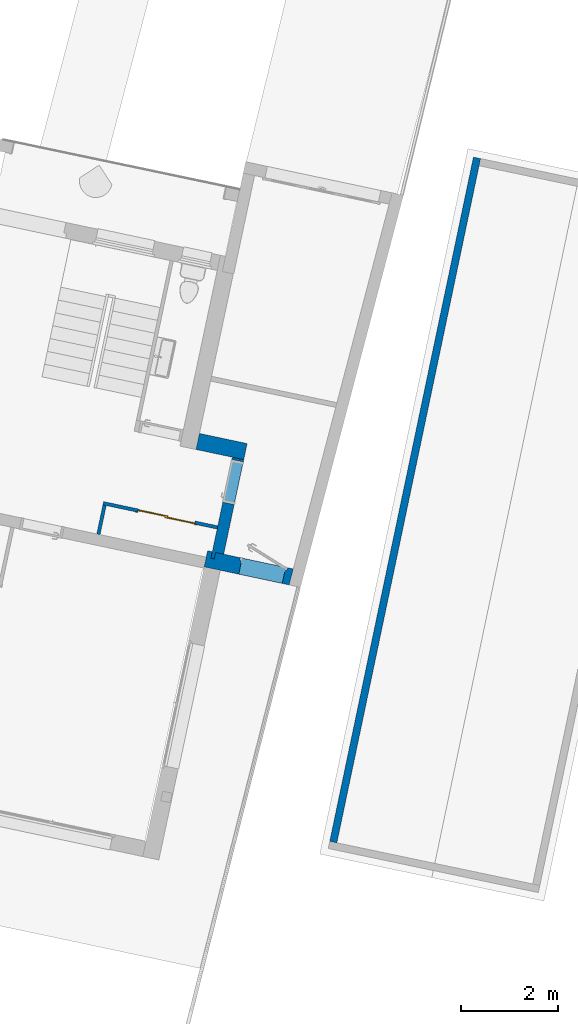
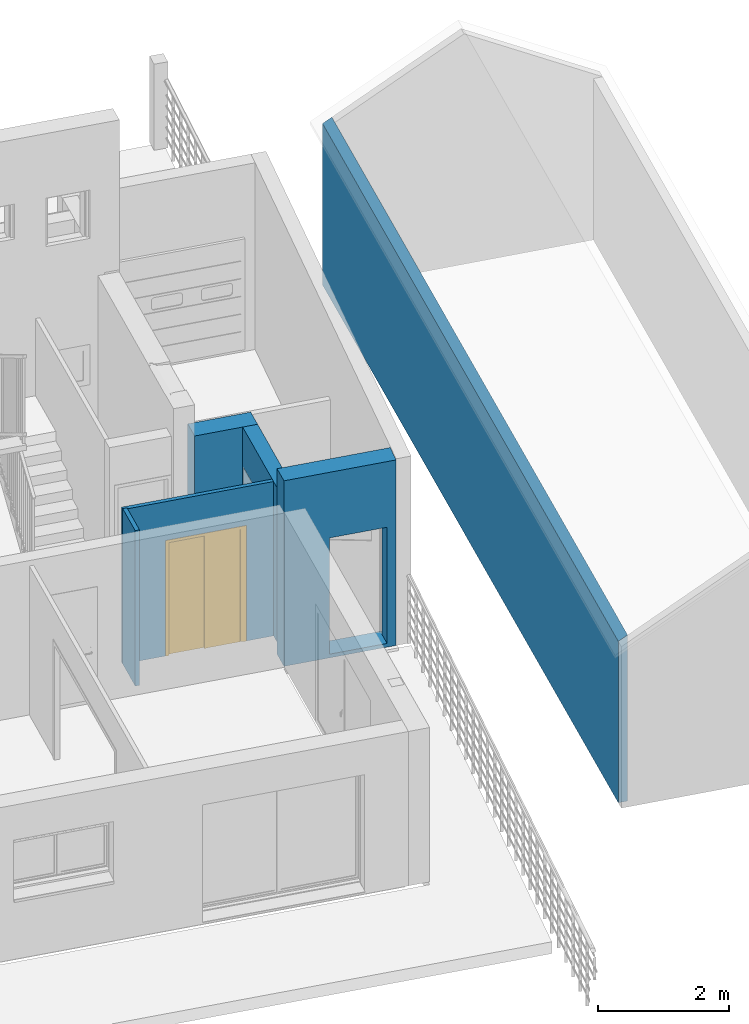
# One storey, part 3 of 20: 6 walls, 1 door, 3 openings.
"""IFC2X3 building model written with IfcOpenShell, lengths in metres."""

from ifc_helpers import new_model, entity, si_unit, converted_unit, derived_unit, direction, frame, frame_2d, origin, origin_2d_with_axis, place, context, subcontext, project, spatial, polyline, circle_curve, parameter, trimmed, segment, composite_curve, rectangle, outline, extrude, clip, bounded_halfspace, faceted_brep, source, transform, mapped, material, material_list, layer, layer_set, layer_usage, type_object, type_shapes, element, fill, save


model = new_model("IFC2X3")

# Units and contexts
model_context = context("Model", 3, precision=1e-05, world=origin(), true_north=direction((6.12303176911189e-17, 1.0)))
body_context = subcontext(model_context, "Body", "Model", "MODEL_VIEW")
ifc_project = project(units=[si_unit("LENGTHUNIT", "METRE"), si_unit("AREAUNIT", "SQUARE_METRE"), si_unit("VOLUMEUNIT", "CUBIC_METRE"), converted_unit("PLANEANGLEUNIT", "DEGREE", entity("IfcRatioMeasure", 0.0174532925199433), si_unit("PLANEANGLEUNIT", "RADIAN"), dimensions=[0, 0, 0, 0, 0, 0, 0]), si_unit("MASSUNIT", "GRAM", prefix="KILO"), derived_unit("MASSDENSITYUNIT", [(si_unit("MASSUNIT", "GRAM", prefix="KILO"), 1), (si_unit("LENGTHUNIT", "METRE"), -3)]), si_unit("TIMEUNIT", "SECOND"), si_unit("FREQUENCYUNIT", "HERTZ"), si_unit("THERMODYNAMICTEMPERATUREUNIT", "DEGREE_CELSIUS"), derived_unit("THERMALTRANSMITTANCEUNIT", [(si_unit("MASSUNIT", "GRAM", prefix="KILO"), 1), (si_unit("THERMODYNAMICTEMPERATUREUNIT", "KELVIN"), -1), (si_unit("TIMEUNIT", "SECOND"), -3)]), derived_unit("VOLUMETRICFLOWRATEUNIT", [(si_unit("LENGTHUNIT", "METRE"), 3), (si_unit("TIMEUNIT", "SECOND"), -1)]), si_unit("ELECTRICCURRENTUNIT", "AMPERE"), si_unit("ELECTRICVOLTAGEUNIT", "VOLT"), si_unit("POWERUNIT", "WATT"), si_unit("FORCEUNIT", "NEWTON", prefix="KILO"), si_unit("ILLUMINANCEUNIT", "LUX"), si_unit("LUMINOUSFLUXUNIT", "LUMEN"), si_unit("LUMINOUSINTENSITYUNIT", "CANDELA"), derived_unit("USERDEFINED", [(si_unit("MASSUNIT", "GRAM", prefix="KILO"), -1), (si_unit("LENGTHUNIT", "METRE"), -2), (si_unit("TIMEUNIT", "SECOND"), 3), (si_unit("LUMINOUSFLUXUNIT", "LUMEN"), 1)]), derived_unit("LINEARVELOCITYUNIT", [(si_unit("LENGTHUNIT", "METRE"), 1), (si_unit("TIMEUNIT", "SECOND"), -1)]), si_unit("PRESSUREUNIT", "PASCAL"), derived_unit("USERDEFINED", [(si_unit("LENGTHUNIT", "METRE"), -2), (si_unit("MASSUNIT", "GRAM", prefix="KILO"), 1), (si_unit("TIMEUNIT", "SECOND"), -2)])], contexts=[model_context])

# Site, building, storey
site_placement = place(None, origin())
site = spatial("IfcSite", under=ifc_project, at=site_placement, Name="Default", CompositionType="ELEMENT")
building_placement = place(site_placement, origin())
building = spatial("IfcBuilding", under=site, at=building_placement, CompositionType="ELEMENT")
storey_placement = place(building_placement, frame((0.0, 0.0, -0.0686871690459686)))
storey = spatial("IfcBuildingStorey", under=building, at=storey_placement, Name="RDC", CompositionType="ELEMENT", Elevation=-0.0686871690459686)

# Wall, opening
ifc_material_1 = material(Name="Enduit blanc cassé2")
ifc_layer_1 = layer(ifc_material_1, 0.02)
ifc_material_2 = material(Name="Parpaing")
ifc_layer_2 = layer(ifc_material_2, 0.2)
ifc_material_3 = material(Name="Isolant")
ifc_layer_3 = layer(ifc_material_3, 0.12)
ifc_layer_set_1 = layer_set([ifc_layer_1, ifc_layer_2, ifc_layer_3], Name="Mur de base:Ext. Parpaing 20 + Isolant 12 enduit blanc cassé 2")
ifc_layer_usage_1 = layer_usage(ifc_layer_set_1, "AXIS2", "POSITIVE", -0.17)
wall_type_1 = type_object("IfcWallType", Name="Mur de base:Ext. Parpaing 20 + Isolant 12 enduit blanc cassé 2", PredefinedType="STANDARD", material=ifc_layer_set_1)
wall_1_placement = place(storey_placement, frame((-10.9003478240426, 79.0485786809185, 0.0), z_axis=(0.0, 0.0, 1.0), x_axis=(0.978238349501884, -0.207484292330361, 0.0)))
wall_1 = element("IfcWallStandardCase", 1, at=wall_1_placement, inside=storey, type_object=wall_type_1, material=ifc_layer_usage_1, Name="Mur de base:Ext. Parpaing 20 + Isolant 12 enduit blanc cassé 2", ObjectType="Mur de base:Ext. Parpaing 20 + Isolant 12 enduit blanc cassé 2", context=body_context, shape_type="SweptSolid", body=[
    extrude(outline(polyline([(1.79590606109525, -0.169999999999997), (1.81218239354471, 0.169999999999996), (0.340000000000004, 0.169999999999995), (0.169999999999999, 0.170000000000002), (0.0, 0.17000000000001), (0.0, 0.0345778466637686), (0.0, -0.17000000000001), (0.34, -0.170000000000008), (1.79590606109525, -0.169999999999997)])), origin(), (0.0, 0.0, 1.0), 3.44868716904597),
])
opening_1_placement = place(wall_1_placement, frame((0.770512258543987, -0.656731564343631, 0.0686871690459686), z_axis=(0.0, 0.0, 1.0), x_axis=(0.978238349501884, 0.207484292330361, 0.0)))
element("IfcOpeningElement", 2, at=opening_1_placement, cuts=wall_1, Name="Mur de base:Ext. Parpaing 20 + Isolant 12 enduit blanc cassé 2", ObjectType="Opening", context=body_context, shape_type="Brep", body=[
    faceted_brep([(1.09501451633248, 0.919544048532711, 2.15999999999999), (0.195035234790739, 1.11042959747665, 2.15999999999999), (0.134449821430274, 0.824783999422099, 2.15999999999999), (1.03442910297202, 0.633898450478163, 2.15999999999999), (0.899979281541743, 0.0, 0.0), (0.0, 0.190885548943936, 0.0), (0.112041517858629, 0.71913425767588, 0.0), (0.10225913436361, 0.721209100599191, 0.0), (0.112218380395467, 0.768164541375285, 0.0), (0.0828712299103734, 0.774389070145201, 0.0), (0.0953202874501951, 0.833083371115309, 0.0), (0.134449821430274, 0.824783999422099, 0.0), (0.195035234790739, 1.11042959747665, 0.0), (1.09501451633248, 0.919544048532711, 0.0), (1.03442910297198, 0.633898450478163, 0.0), (1.07355863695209, 0.625599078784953, 0.0), (1.06110957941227, 0.566904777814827, 0.0), (1.03176242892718, 0.573129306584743, 0.0), (1.02180318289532, 0.526173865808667, 0.0), (1.01202079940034, 0.528248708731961, 0.0), (0.899979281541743, 0.0, 2.15999999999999), (0.0, 0.190885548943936, 2.15999999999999), (0.112041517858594, 0.719134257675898, 2.15999999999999), (0.112218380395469, 0.768164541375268, 2.16999999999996), (1.03176242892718, 0.573129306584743, 2.16999999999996), (1.06110957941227, 0.566904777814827, 2.2), (0.0828712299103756, 0.774389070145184, 2.2), (0.102259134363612, 0.721209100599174, 2.16999999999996), (1.01202079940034, 0.528248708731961, 2.15999999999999), (1.02180318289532, 0.52617386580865, 2.16999999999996), (0.0953202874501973, 0.833083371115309, 2.2), (1.0735586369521, 0.625599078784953, 2.2)], [[[0, 1, 2, 3]], [[4, 5, 6, 7, 8, 9, 10, 11, 12, 13, 14, 15, 16, 17, 18, 19]], [[13, 0, 3, 14]], [[20, 21, 5, 4]], [[5, 21, 22, 6]], [[1, 0, 13, 12]], [[9, 8, 23, 24, 17, 16, 25, 26]], [[8, 7, 27, 23]], [[7, 6, 22, 28, 19, 18, 29, 27]], [[11, 10, 30, 31, 15, 14, 3, 2]], [[10, 9, 26, 30]], [[24, 23, 27, 29]], [[26, 25, 31, 30]], [[17, 24, 29, 18]], [[25, 16, 15, 31]], [[1, 12, 11, 2]], [[20, 4, 19, 28]], [[21, 20, 28, 22]]]),
])

# Wall
ifc_layer_usage_2 = layer_usage(ifc_layer_set_1, "AXIS2", "NEGATIVE", 0.17)
wall_2_placement = place(storey_placement, frame((-11.0687676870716, 81.4763555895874, 0.0), z_axis=(0.0, 0.0, 1.0), x_axis=(0.978238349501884, -0.207484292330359, 0.0)))
element("IfcWallStandardCase", 3, at=wall_2_placement, inside=storey, type_object=wall_type_1, material=ifc_layer_usage_2, Name="Mur de base:Ext. Parpaing 20 + Isolant 12 enduit blanc cassé 2", ObjectType="Mur de base:Ext. Parpaing 20 + Isolant 12 enduit blanc cassé 2", context=body_context, shape_type="SweptSolid", body=[
    extrude(rectangle(XDim=1.00848034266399, YDim=0.339999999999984, at=frame_2d((0.504240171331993, -7.32747196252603e-15), x_axis=(-1.0, 0.0))), origin(), (0.0, 0.0, 1.0), 2.86868716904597),
])

# Wall, opening
ifc_layer_4 = layer(ifc_material_1, 0.02)
ifc_layer_5 = layer(ifc_material_2, 0.2)
ifc_layer_6 = layer(ifc_material_1, 0.02)
ifc_layer_set_2 = layer_set([ifc_layer_4, ifc_layer_5, ifc_layer_6], Name="Mur de base:Ext. Parpaing 2 + 20 + 2")
ifc_layer_usage_3 = layer_usage(ifc_layer_set_2, "AXIS2", "POSITIVE", -0.12)
wall_type_2 = type_object("IfcWallType", Name="Mur de base:Ext. Parpaing 2 + 20 + 2", PredefinedType="STANDARD", material=ifc_layer_set_2)
wall_3_placement = place(storey_placement, frame((-10.6779610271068, 79.0367575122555, 0.0), z_axis=(0.0, 0.0, 1.0), x_axis=(0.207484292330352, 0.978238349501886, 0.0)))
wall_3 = element("IfcWallStandardCase", 4, at=wall_3_placement, inside=storey, type_object=wall_type_2, material=ifc_layer_usage_3, Name="Mur de base:Ext. Parpaing 2 + 20 + 2", ObjectType="Mur de base:Ext. Parpaing 2 + 20 + 2", context=body_context, shape_type="SweptSolid", body=[
    extrude(outline(polyline([(2.13542215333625, -0.119999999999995), (2.13542215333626, 0.120000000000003), (0.684671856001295, 0.120000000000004), (0.614671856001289, 0.120000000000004), (0.0, 0.120000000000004), (0.0, 0.0500000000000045), (0.135422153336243, 0.0500000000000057), (0.135422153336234, -0.119999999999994), (2.13542215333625, -0.119999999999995)])), origin(), (0.0, 0.0, 1.0), 2.86868716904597),
])
opening_2_placement = place(wall_3_placement, frame((1.18542215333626, -0.120000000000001, 0.0686871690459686)))
element("IfcOpeningElement", 5, at=opening_2_placement, cuts=wall_3, Name="FR_Simple (R):83 x 204 - (80):1", ObjectType="Opening", context=body_context, shape_type="SweptSolid", body=[
    extrude(rectangle(XDim=2.075, YDim=0.9, at=frame_2d((1.0375, 0.45), x_axis=(1.0, 0.0))), frame((0.0, 0.0, 0.0), z_axis=(0.0, 1.0, 0.0), x_axis=(0.0, 0.0, 1.0)), (0.0, 0.0, 1.0), 0.24),
])

# Wall, opening, door
ifc_material_4 = material(Name="Blanc - Element de salle de bains")
ifc_layer_7 = layer(ifc_material_4, 0.07)
ifc_layer_set_3 = layer_set([ifc_layer_7], Name="Mur de base:Int.  Platre 70 mm en blanc")
ifc_layer_usage_4 = layer_usage(ifc_layer_set_3, "AXIS2", "NEGATIVE", 0.035)
wall_type_3 = type_object("IfcWallType", Name="Mur de base:Int.  Platre 70 mm en blanc", PredefinedType="STANDARD", material=ifc_layer_set_3)
wall_4_placement = place(storey_placement, frame((-13.0232059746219, 80.1983081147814, 0.0), z_axis=(0.0, 0.0, 1.0), x_axis=(0.978238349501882, -0.207484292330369, 0.0)))
wall_4 = element("IfcWallStandardCase", 6, at=wall_4_placement, inside=storey, type_object=wall_type_3, material=ifc_layer_usage_4, Name="Mur de base:Int.  Platre 70 mm en blanc", ObjectType="Mur de base:Int.  Platre 70 mm en blanc", context=body_context, shape_type="SweptSolid", body=[
    extrude(rectangle(XDim=2.41521205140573, YDim=0.069999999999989, at=frame_2d((1.20760602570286, -4.76008121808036e-15), x_axis=(-1.0, 0.0))), origin(), (0.0, 0.0, 1.0), 2.86868716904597),
])
opening_3_placement = place(wall_4_placement, frame((1.93521205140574, 0.0350000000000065, 0.0)))
opening_3 = element("IfcOpeningElement", 7, at=opening_3_placement, cuts=wall_4, Name="Placard coulissante - 2 panneaux:Placard coulissante - 2 panneaux:1", ObjectType="Opening", context=body_context, shape_type="SweptSolid", body=[
    extrude(rectangle(XDim=2.09999999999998, YDim=1.2, at=frame_2d((1.04999999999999, 0.6), x_axis=(1.0, 0.0))), frame((0.0, 0.0, 0.0), z_axis=(0.0, -1.0, 0.0), x_axis=(0.0, 0.0, 1.0)), (0.0, 0.0, 1.0), 0.07),
])
ifc_material_5 = material(Name="Placard - Profil")
ifc_material_6 = material(Name="Placard - Encadrement")
ifc_material_7 = material(Name="Placard - Porte")
ifc_material_list_1 = material_list([ifc_material_5, ifc_material_6, ifc_material_7])
ifc_material_list_2 = material_list([ifc_material_5, ifc_material_6, ifc_material_7])
door_style = type_object("IfcDoorStyle", Name="Placard coulissante - 2 panneaux", ConstructionType="NOTDEFINED", OperationType="NOTDEFINED", ParameterTakesPrecedence=False, Sizeable=False, material=ifc_material_list_2)
shared_shape = source(origin(), body_context, "Body", "SweptSolid", [
    extrude(outline(composite_curve([segment(polyline([(-0.0250000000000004, -0.00100000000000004), (0.0249999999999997, -0.00100000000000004)]), True, "CONTINUOUS"), segment(polyline([(0.0249999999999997, -0.00100000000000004), (0.0249999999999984, 0.00100000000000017)]), True, "CONTINUOUS"), segment(trimmed(circle_curve(frame_2d((0.0, -0.212860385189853), x_axis=(-1.0, 0.0)), 0.215316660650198), [parameter(263.332459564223)], [parameter(276.667540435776)], True, "PARAMETER"), True, "CONTINUOUS"), segment(polyline([(-0.0250000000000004, 0.00100000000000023), (-0.0250000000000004, -0.00100000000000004)]), True, "CONTINUOUS")], self_intersect=False)), frame((1.175, 0.00900000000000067, 0.0), z_axis=(0.0, 0.0, 1.0), x_axis=(-1.0, 0.0, 0.0)), (0.0, 0.0, 1.0), 2.1),
    extrude(outline(composite_curve([segment(polyline([(-0.0250000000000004, -0.00100000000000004), (0.0249999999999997, -0.00100000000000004)]), True, "CONTINUOUS"), segment(polyline([(0.0249999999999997, -0.00100000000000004), (0.0249999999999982, 0.00100000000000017)]), True, "CONTINUOUS"), segment(trimmed(circle_curve(frame_2d((0.0, -0.212860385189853), x_axis=(-1.0, 0.0)), 0.215316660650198), [parameter(263.332459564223)], [parameter(276.667540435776)], True, "PARAMETER"), True, "CONTINUOUS"), segment(polyline([(-0.0250000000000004, 0.00100000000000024), (-0.0250000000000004, -0.00100000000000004)]), True, "CONTINUOUS")], self_intersect=False)), frame((0.599999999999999, 0.00900000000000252, 0.0), z_axis=(0.0, 0.0, 1.0), x_axis=(-1.0, 0.0, 0.0)), (0.0, 0.0, 1.0), 2.1),
    extrude(outline(composite_curve([segment(polyline([(-0.0250000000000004, -0.00100000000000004), (0.0249999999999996, -0.00100000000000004)]), True, "CONTINUOUS"), segment(polyline([(0.0249999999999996, -0.00100000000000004), (0.0249999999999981, 0.00100000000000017)]), True, "CONTINUOUS"), segment(trimmed(circle_curve(frame_2d((0.0, -0.212860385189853), x_axis=(-1.0, 0.0)), 0.215316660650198), [parameter(263.332459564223)], [parameter(276.667540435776)], True, "PARAMETER"), True, "CONTINUOUS"), segment(polyline([(-0.0250000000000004, 0.00100000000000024), (-0.0250000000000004, -0.00100000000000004)]), True, "CONTINUOUS")], self_intersect=False)), frame((0.599999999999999, 0.0340000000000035, 0.0), z_axis=(0.0, 0.0, 1.0), x_axis=(-1.0, 0.0, 0.0)), (0.0, 0.0, 1.0), 2.1),
    extrude(outline(composite_curve([segment(polyline([(-0.0250000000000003, -0.00100000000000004), (0.0249999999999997, -0.00100000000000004)]), True, "CONTINUOUS"), segment(polyline([(0.0249999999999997, -0.00100000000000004), (0.0249999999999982, 0.00100000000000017)]), True, "CONTINUOUS"), segment(trimmed(circle_curve(frame_2d((0.0, -0.212860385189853), x_axis=(-1.0, 0.0)), 0.215316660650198), [parameter(263.332459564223)], [parameter(276.667540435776)], True, "PARAMETER"), True, "CONTINUOUS"), segment(polyline([(-0.0250000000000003, 0.00100000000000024), (-0.0250000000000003, -0.00100000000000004)]), True, "CONTINUOUS")], self_intersect=False)), frame((0.0250000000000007, 0.0340000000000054, 0.0), z_axis=(0.0, 0.0, 1.0), x_axis=(-1.0, 0.0, 0.0)), (0.0, 0.0, 1.0), 2.1),
    extrude(outline(polyline([(-1.06149999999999, -0.647999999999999), (1.08649999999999, -0.647999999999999), (1.08649999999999, 0.647999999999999), (-1.06149999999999, 0.647999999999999), (-1.06149999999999, 0.597999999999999), (1.03649999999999, 0.597999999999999), (1.03649999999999, -0.597999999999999), (-1.06149999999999, -0.597999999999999), (-1.06149999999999, -0.647999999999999)])), frame((0.6, -0.003, 1.06149999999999), z_axis=(0.0, 1.0, 0.0), x_axis=(0.0, 0.0, 1.0)), (0.0, 0.0, 1.0), 0.003),
    extrude(rectangle(XDim=0.020000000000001, YDim=0.625000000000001, at=origin_2d_with_axis()), frame((0.8875, 0.0200000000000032, 0.0), z_axis=(0.0, 0.0, 1.0), x_axis=(0.0, 1.0, 0.0)), (0.0, 0.0, 1.0), 2.1),
    extrude(rectangle(XDim=0.02, YDim=0.624999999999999, at=origin_2d_with_axis()), frame((0.3125, 0.0450000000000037, 0.0), z_axis=(0.0, 0.0, 1.0), x_axis=(0.0, 1.0, 0.0)), (0.0, 0.0, 1.0), 2.1),
])
type_shapes(door_style, [shared_shape])
door_placement = place(opening_3_placement, frame((-1.2, -0.0700000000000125, 0.0)))
door = element("IfcDoor", 8, at=door_placement, inside=storey, type_object=door_style, material=ifc_material_list_1, Name="Placard coulissante - 2 panneaux:Placard coulissante - 2 panneaux", ObjectType="Placard coulissante - 2 panneaux:Placard coulissante - 2 panneaux", OverallHeight=2.09999999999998, OverallWidth=1.2, context=body_context, shape_type="MappedRepresentation", body=[
    mapped(shared_shape, transform((0.0, 0.0, 0.0), scale=1.0)),
])
fill(opening_3, door)

# Walls
ifc_layer_usage_5 = layer_usage(ifc_layer_set_3, "AXIS2", "POSITIVE", -0.035)
wall_5_placement = place(storey_placement, frame((-12.9962295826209, 80.1568078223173, 0.0), z_axis=(0.0, 0.0, 1.0), x_axis=(-0.207484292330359, -0.978238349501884, 0.0)))
element("IfcWallStandardCase", 9, at=wall_5_placement, inside=storey, type_object=wall_type_3, material=ifc_layer_usage_5, Name="Mur de base:Int.  Platre 70 mm en blanc", ObjectType="Mur de base:Int.  Platre 70 mm en blanc", context=body_context, shape_type="SweptSolid", body=[
    extrude(rectangle(XDim=0.614671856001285, YDim=0.0699999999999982, at=frame_2d((0.307335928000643, 1.34267597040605e-15), x_axis=(-1.0, 0.0))), origin(), (0.0, 0.0, 1.0), 2.88868716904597),
])
ifc_material_8 = material(Name="Mur par défaut")
ifc_layer_8 = layer(ifc_material_8, 0.15)
ifc_layer_set_4 = layer_set([ifc_layer_8], Name="Mur de base:Générique - Ext. 150 mm")
ifc_layer_usage_6 = layer_usage(ifc_layer_set_4, "AXIS2", "NEGATIVE", 0.075)
wall_type_4 = type_object("IfcWallType", Name="Mur de base:Générique - Ext. 150 mm", PredefinedType="STANDARD", material=ifc_layer_set_4)
wall_6_placement = place(storey_placement, frame((-8.26421975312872, 73.1878471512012, 0.0), z_axis=(0.0, 0.0, 1.0), x_axis=(0.205521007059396, 0.978652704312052, 0.0)))
element("IfcWallStandardCase", 10, at=wall_6_placement, inside=storey, type_object=wall_type_4, material=ifc_layer_usage_6, Name="Mur de base:Générique - Ext. 150 mm", ObjectType="Mur de base:Générique - Ext. 150 mm", context=body_context, shape_type="Clipping", body=[
    clip(extrude(rectangle(XDim=14.4640350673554, YDim=0.149999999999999, at=frame_2d((7.23201753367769, 6.93889390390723e-18), x_axis=(-1.0, 0.0))), origin(), (0.0, 0.0, 1.0), 3.08660254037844), bounded_halfspace(frame((0.0, -0.0750000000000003, 3.08660254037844), z_axis=(0.0, 0.5, 0.866025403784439), x_axis=(-1.0, 0.0, 0.0)), False, frame((0.0, -0.0750000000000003, 3.08660254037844)), polyline([(0.0, 0.0), (14.3140350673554, 0.0), (14.4640350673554, 0.0), (14.4640350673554, 0.149999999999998), (0.0, 0.150000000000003), (0.0, 0.0)]))),
])

save(model, "model.ifc")
